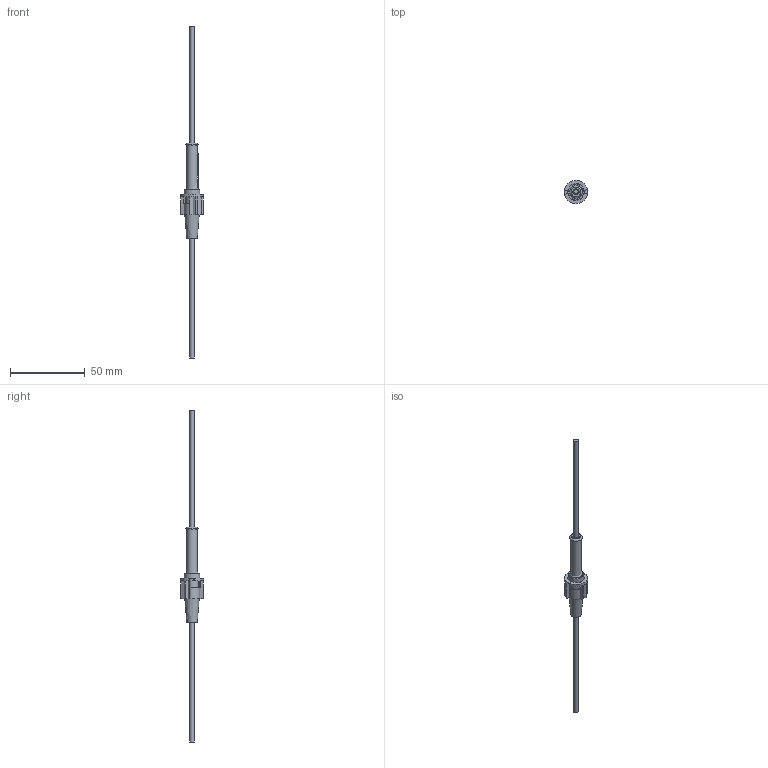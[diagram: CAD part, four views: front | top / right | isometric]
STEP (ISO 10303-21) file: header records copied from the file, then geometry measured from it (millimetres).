
FILE_DESCRIPTION(/* description */ (''),/* implementation_level */ '2;1');
FILE_NAME(/* name */ 'C:\Users\Hani\Desktop\work\LPA-01\LAP-01.stp',/* time_stamp */ '2021-07-23T09:59:21-07:00',/* author */ ('Hani'),/* organization */ (''),/* preprocessor_version */ 'ST-DEVELOPER v17',/* originating_system */ 'Autodesk Inventor 2019',/* authorisation */ '');
FILE_SCHEMA (('AUTOMOTIVE_DESIGN { 1 0 10303 214 3 1 1 }'));
Length unit declared in the file: inch
Products named in the file (5): LAP-01 Assyembly; LPA-01; LPA-01-Top; Spring; wire
Assembly tree (5 placements, depth 2):
  LAP-01 Assyembly
    LPA-01
    LPA-01-Top
    Spring
    wire  x2
Bounding box: 15.47 x 15.49 x 221.38 mm (x, y, z)
Volume: 3610.7 mm3; surface area: 6601.1 mm2
Topology: 6 solids, 6 shells, 227 faces, 611 edges, 401 vertices
Faces by surface type: plane 113, bspline 73, cylinder 36, cone 4, torus 1
Full cylindrical faces by diameter (mm): 2.997 x2, 4.064 x1, 7.214 x1, 8.382 x3, 10.592 x1, 15.494 x1
Entity records: 16173 total; most frequent: CARTESIAN_POINT 10710, ORIENTED_EDGE 1216, DIRECTION 915, EDGE_CURVE 608, VERTEX_POINT 399, LINE 307, VECTOR 307, AXIS2_PLACEMENT_3D 304
